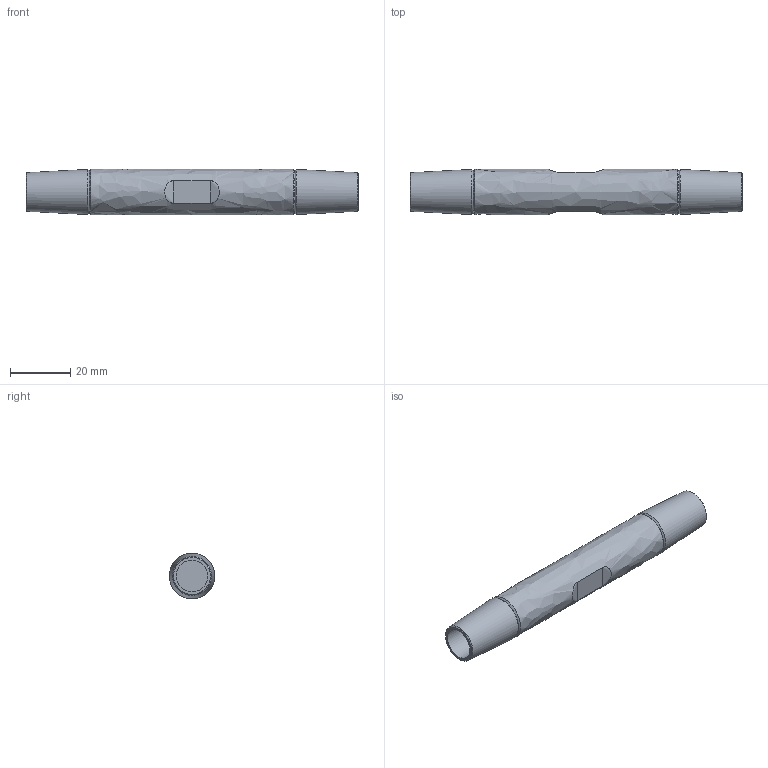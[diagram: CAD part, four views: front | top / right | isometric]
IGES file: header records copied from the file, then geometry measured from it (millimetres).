
Global section: file name: 520-010-MUF; native system: Autodesk Inventor 2016; preprocessor: unknown; author: Administrator; date: 20200630.130936; units: centimetre
Bounding box: 110 x 15 x 15 mm (x, y, z)
Volume: 15451.7 mm3; surface area: 6368.3 mm2
Topology: 1 solids, 1 shells, 21 faces, 54 edges, 38 vertices
Faces by surface type: bspline 21
